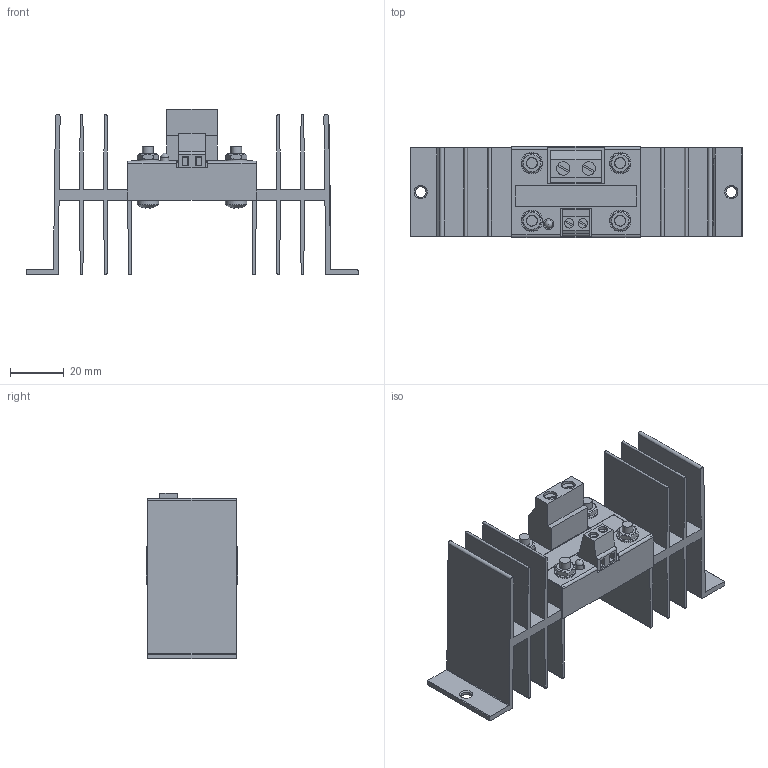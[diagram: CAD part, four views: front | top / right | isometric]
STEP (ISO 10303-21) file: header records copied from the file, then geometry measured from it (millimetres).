
FILE_DESCRIPTION(('TFLEX Exchange Step'),'2;1');
FILE_NAME('3D-модель прибора СБ15М3.stp', '2026-04-09T19:12:38+05:00',('Алексей'),('Unknown organisation'),'TFLEX Exchange 2024.6','T-FLEX CAD','Unknown authorisation');
FILE_SCHEMA( ('AUTOMOTIVE_DESIGN { 1 0 10303 214 1 1 1 1 }') );
Length unit declared in the file: millimetre
Products named in the file (13): Этикетка 2; Этикетка 1; Клемма Б:2; Клемма Б; Клемма:2; Клемма; Светодиод красный; Корпус; Радиатор
Assembly tree (23 placements, depth 3):
  (unnamed)
    Этикетка 2
    Этикетка 1
    Клемма Б
      Клемма Б:2  x2
    Клемма
      Клемма:2  x2
    Светодиод красный
    (unnamed)  x4
    (unnamed)  x4
    (unnamed)  x4
    Корпус
    Радиатор
Bounding box: 124 x 34 x 62 mm (x, y, z)
Volume: 41609.4 mm3; surface area: 51789.8 mm2
Topology: 23 solids, 23 shells, 451 faces, 1135 edges, 695 vertices
Faces by surface type: plane 271, cylinder 85, cone 54, bspline 32, sphere 5, torus 4
Full cylindrical faces by diameter (mm): 3 x1, 3.242 x4, 3.5 x4, 4 x7, 4.5 x8, 5 x4, 8 x4
Entity records: 9450 total; most frequent: CARTESIAN_POINT 1989, DIRECTION 1488, ORIENTED_EDGE 1470, EDGE_CURVE 735, VECTOR 506, LINE 506, AXIS2_PLACEMENT_3D 491, VERTEX_POINT 468
